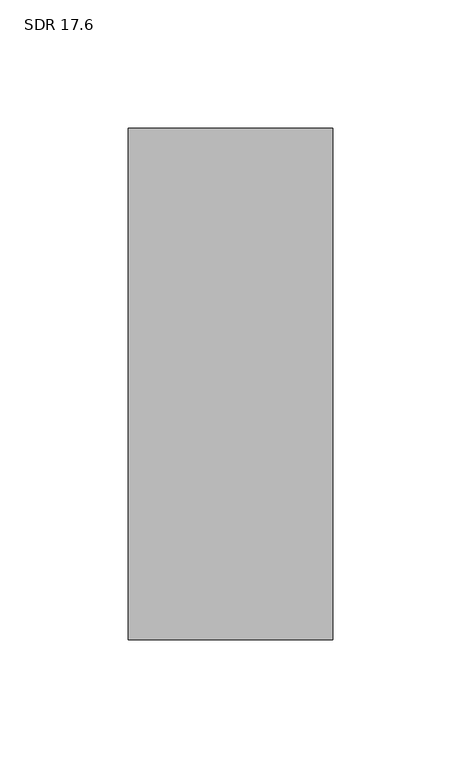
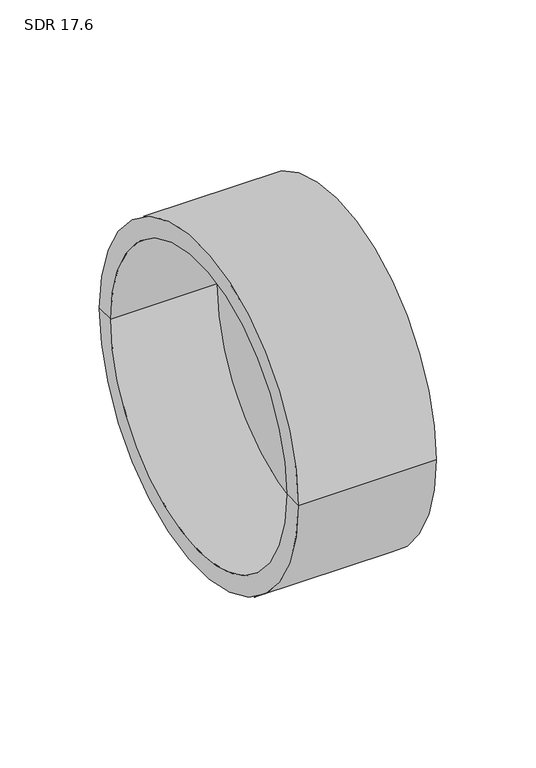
"""IFC4 building model written with IfcOpenShell, lengths in millimetres: pipe fitting geometry, Aquatherm - End Cap Butt-Weld : SDR 17.6."""

from ifc_helpers import new_model, si_unit, frame, origin, place, context, project, spatial, polyline, circle_curve, source, transform, mapped, element, save
from ifc_brep_helpers import plane_surface, cylinder_surface, revolved_surface, advanced_brep


def sdr_17_6_c99f4f7d(model_context):
    return source(origin(), model_context, "Body", "AdvancedBrep", [
        advanced_brep(
        [(80.01, -99.949, 0.0), (80.01, 99.949, 0.0), (80.01, 0.0, 0.0), (61.722, 0.0, 0.0), (61.722, 88.646, 0.0), (61.722, -88.646, 0.0), (0.0, 88.646, 0.0), (0.0, -88.646, 0.0), (0.0, 99.949, 0.0), (0.0, -99.949, 0.0)],
        [
            (0, 1, circle_curve(frame((80.01, 0.0, 0.0), z_axis=(1.0, 0.0, 0.0), x_axis=(0.0, 1.0, 0.0)), 99.949)),
            (1, 2),
            (2, 0),
            (1, 0, circle_curve(frame((80.01, 0.0, 0.0), z_axis=(1.0, 0.0, 0.0), x_axis=(0.0, 1.0, 0.0)), 99.949)),
            (3, 4),
            (4, 5, circle_curve(frame((61.722, 0.0, 0.0), z_axis=(-1.0, 0.0, 0.0), x_axis=(0.0, 1.0, 0.0)), 88.646)),
            (5, 3),
            (5, 4, circle_curve(frame((61.722, 0.0, 0.0), z_axis=(-1.0, 0.0, 0.0), x_axis=(0.0, 1.0, 0.0)), 88.646)),
            (4, 6),
            (6, 7, circle_curve(frame((0.0, 0.0, 0.0), z_axis=(-1.0, 0.0, 0.0), x_axis=(0.0, 1.0, 0.0)), 88.646)),
            (7, 5),
            (7, 6, circle_curve(frame((0.0, 0.0, 0.0), z_axis=(-1.0, 0.0, 0.0), x_axis=(0.0, 1.0, 0.0)), 88.646)),
            (6, 8),
            (8, 9, circle_curve(frame((0.0, 0.0, 0.0), z_axis=(-1.0, 0.0, 0.0), x_axis=(0.0, 1.0, 0.0)), 99.949)),
            (9, 7),
            (9, 8, circle_curve(frame((0.0, 0.0, 0.0), z_axis=(-1.0, 0.0, 0.0), x_axis=(0.0, 1.0, 0.0)), 99.949)),
            (8, 1),
            (0, 9),
        ],
        [
            plane_surface(frame((80.01, 0.0, 0.0), z_axis=(1.0, 0.0, 0.0), x_axis=(0.0, 1.0, 0.0))),
            plane_surface(frame((61.722, 0.0, 0.0), z_axis=(-1.0, 0.0, 0.0), x_axis=(0.0, 1.0, 0.0))),
            revolved_surface(polyline([(0.0, 88.646, 0.0), (61.72199999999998, 88.646, 0.0)]), (-1363.98, 0.0, 0.0), (-1.0, 0.0, 0.0)),
            plane_surface(frame((0.0, 0.0, 0.0), z_axis=(-1.0, 0.0, 0.0), x_axis=(0.0, 1.0, 0.0))),
            cylinder_surface(frame((-1363.98, 0.0, 0.0), z_axis=(-1.0, 0.0, 0.0), x_axis=(0.0, 1.0, 0.0)), 99.949),
        ],
        [
            (0, [[1, 2, 3]]),
            (0, [[4, -3, -2]]),
            (1, [[5, 6, 7]]),
            (1, [[-7, 8, -5]]),
            (2, [[-6, 9, 10, 11]]),
            (2, [[-8, -11, 12, -9]]),
            (3, [[-10, 13, 14, 15]]),
            (3, [[-12, -15, 16, -13]]),
            (4, [[-14, 17, -1, 18]]),
            (4, [[-16, -18, -4, -17]]),
        ],
    ),
    ])


if __name__ == "__main__":
    model = new_model("IFC4")
    model_context = context("Model", 3, world=origin())
    ifc_project = project(units=[si_unit("LENGTHUNIT", "METRE", prefix="MILLI")], contexts=[model_context])
    site = spatial("IfcSite", under=ifc_project)
    building = spatial("IfcBuilding", under=site)
    placement = place(None, origin())
    sdr_17_6_shape = sdr_17_6_c99f4f7d(model_context)
    element("IfcPipeFitting", 1, ObjectType="Aquatherm - End Cap Butt-Weld : SDR 17.6", at=placement, inside=building, context=model_context, shape_type="MappedRepresentation", body=[
        mapped(sdr_17_6_shape, transform((0.0, 0.0, 0.0), x_axis=(1.0, 0.0, 0.0), y_axis=(0.0, 1.0, 0.0), z_axis=(0.0, 0.0, 1.0))),
    ])
    save(model, "model.ifc")
